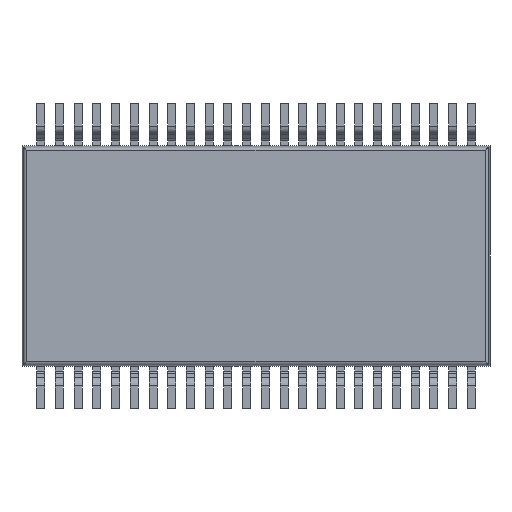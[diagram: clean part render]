
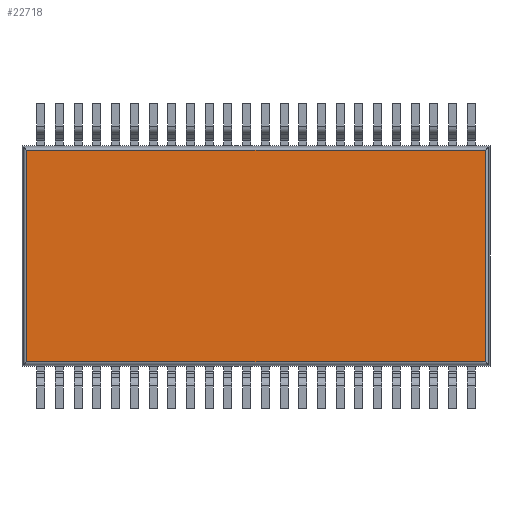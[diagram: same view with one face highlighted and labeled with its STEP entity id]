
A CAD part, front view. The second image highlights one B-rep face of the part: STEP entity #22718.
In plain terms, the highlighted planar face has unit normal (0, -1, 0).
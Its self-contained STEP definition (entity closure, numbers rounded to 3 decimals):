
#22679 = CARTESIAN_POINT ( 'NONE',  ( 7.783, 0.2, -3.591 ) ) ;
#22680 = VERTEX_POINT ( 'NONE', #22679 ) ;
#22681 = CARTESIAN_POINT ( 'NONE',  ( 7.783, 0.2, 3.591 ) ) ;
#22682 = VERTEX_POINT ( 'NONE', #22681 ) ;
#22683 = CARTESIAN_POINT ( 'NONE',  ( 7.783, 0.2, 0. ) ) ;
#22684 = DIRECTION ( 'NONE',  ( 0., 0., 1. ) ) ;
#22685 = VECTOR ( 'NONE', #22684, 1000. ) ;
#22686 = LINE ( 'NONE', #22683, #22685 ) ;
#22687 = EDGE_CURVE ( 'NONE', #22680, #22682, #22686, .T. ) ;
#22688 = ORIENTED_EDGE ( 'NONE', *, *, #22687, .T. ) ;
#22689 = CARTESIAN_POINT ( 'NONE',  ( -7.783, 0.2, 3.591 ) ) ;
#22690 = VERTEX_POINT ( 'NONE', #22689 ) ;
#22691 = CARTESIAN_POINT ( 'NONE',  ( 0., 0.2, 3.591 ) ) ;
#22692 = DIRECTION ( 'NONE',  ( -1., 0., 0. ) ) ;
#22693 = VECTOR ( 'NONE', #22692, 1000. ) ;
#22694 = LINE ( 'NONE', #22691, #22693 ) ;
#22695 = EDGE_CURVE ( 'NONE', #22682, #22690, #22694, .T. ) ;
#22696 = ORIENTED_EDGE ( 'NONE', *, *, #22695, .T. ) ;
#22697 = CARTESIAN_POINT ( 'NONE',  ( -7.783, 0.2, -3.591 ) ) ;
#22698 = VERTEX_POINT ( 'NONE', #22697 ) ;
#22699 = CARTESIAN_POINT ( 'NONE',  ( -7.783, 0.2, 0. ) ) ;
#22700 = DIRECTION ( 'NONE',  ( 0., 0., -1. ) ) ;
#22701 = VECTOR ( 'NONE', #22700, 1000. ) ;
#22702 = LINE ( 'NONE', #22699, #22701 ) ;
#22703 = EDGE_CURVE ( 'NONE', #22690, #22698, #22702, .T. ) ;
#22704 = ORIENTED_EDGE ( 'NONE', *, *, #22703, .T. ) ;
#22705 = CARTESIAN_POINT ( 'NONE',  ( 0., 0.2, -3.591 ) ) ;
#22706 = DIRECTION ( 'NONE',  ( 1., 0., 0. ) ) ;
#22707 = VECTOR ( 'NONE', #22706, 1000. ) ;
#22708 = LINE ( 'NONE', #22705, #22707 ) ;
#22709 = EDGE_CURVE ( 'NONE', #22698, #22680, #22708, .T. ) ;
#22710 = ORIENTED_EDGE ( 'NONE', *, *, #22709, .T. ) ;
#22711 = EDGE_LOOP ( 'NONE', ( #22688, #22696, #22704, #22710 ) ) ;
#22712 = FACE_OUTER_BOUND ( 'NONE', #22711, .T. ) ;
#22713 = CARTESIAN_POINT ( 'NONE',  ( 0., 0.2, 0. ) ) ;
#22714 = DIRECTION ( 'NONE',  ( 0., -1., 0. ) ) ;
#22715 = DIRECTION ( 'NONE',  ( 0., 0., -1. ) ) ;
#22716 = AXIS2_PLACEMENT_3D ( 'NONE', #22713, #22714, #22715 ) ;
#22717 = PLANE ( 'NONE', #22716 ) ;
#22718 = ADVANCED_FACE ( 'NONE', ( #22712 ), #22717, .T. ) ;
